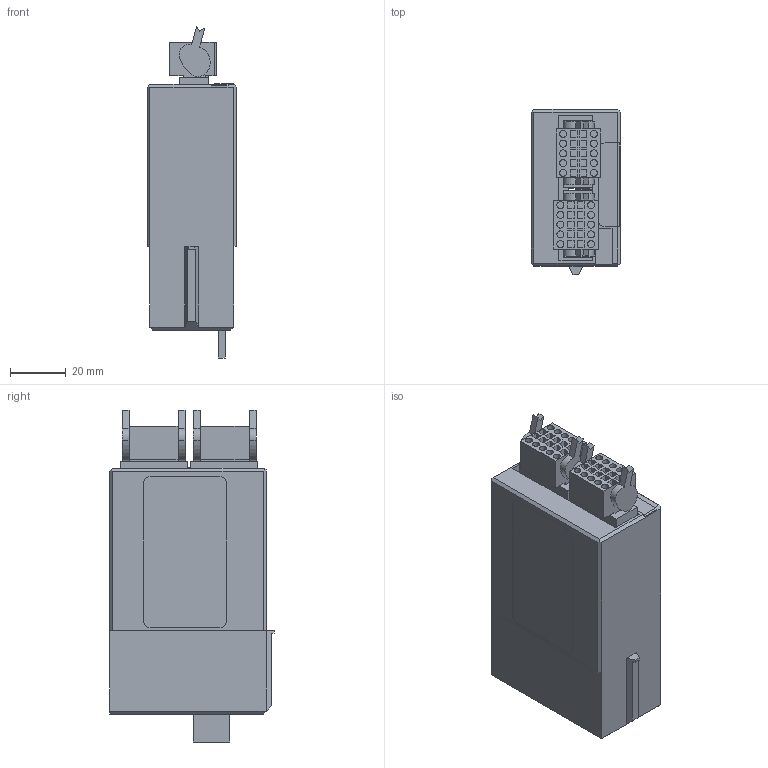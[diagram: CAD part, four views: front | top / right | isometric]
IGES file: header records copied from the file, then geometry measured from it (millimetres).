
Global section: file name: SBC_STEP_PLC_PCD3W380-Plug-2K_2020-12-18.igs; native system: CAD Exchanger; preprocessor: CAD Exchanger 3.9.0 (cadexchanger.com); date: 20201219.184751; units: millimetre
Bounding box: 32.2 x 59 x 118.87 mm (x, y, z)
Volume: 63560.2 mm3; surface area: 56632.7 mm2
Topology: 15 solids, 15 shells, 328 faces, 751 edges, 498 vertices
Faces by surface type: plane 282, cylinder 46
Full cylindrical faces by diameter (mm): 2.5 x20
